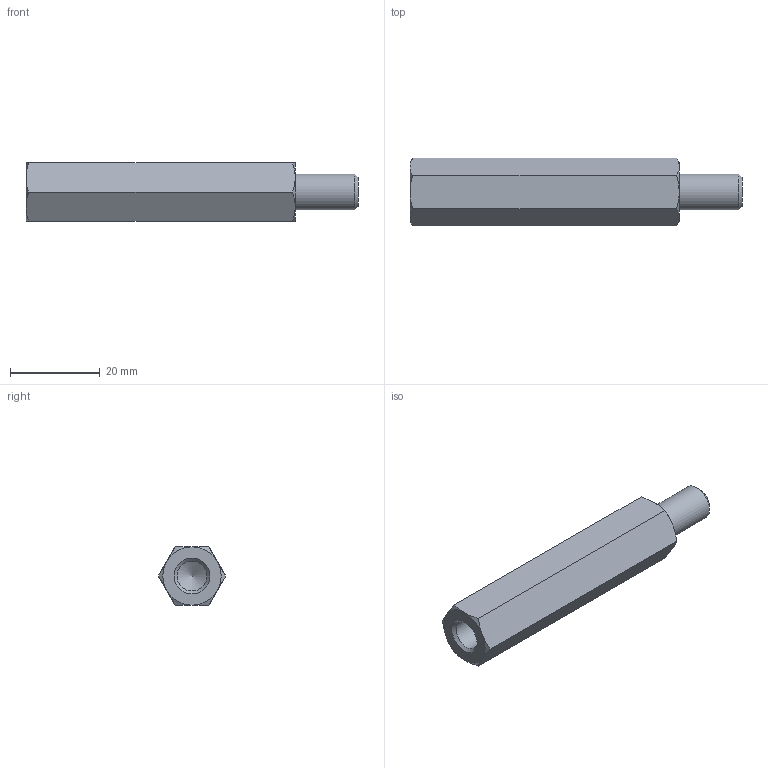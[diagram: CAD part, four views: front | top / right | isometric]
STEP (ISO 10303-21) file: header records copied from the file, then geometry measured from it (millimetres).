
FILE_DESCRIPTION( ( 'STEP AP203' ), '1' );
FILE_NAME( 'C:/Temp/Ganter_Step_05_03_2020/data/3_2/gn6220/gn6220_ni/Stainless Steel-Spacer GN 6220-NI-M8-60-B.stp', '2020-03-13T05:43:19', ( 'License CC BY-ND 4.0' ), ( 'CADENAS' ), ' ', 'PARTsolutions', ' ' );
FILE_SCHEMA( ( 'CONFIG_CONTROL_DESIGN' ) );
Length unit declared in the file: millimetre
Products named in the file (1): _Stainless Steel-Spacer GN 6220-NI-M8-60-B
Bounding box: 74 x 15.01 x 13 mm (x, y, z)
Volume: 8744.4 mm3; surface area: 3740.7 mm2
Topology: 1 solids, 1 shells, 26 faces, 55 edges, 32 vertices
Faces by surface type: cone 15, plane 9, cylinder 2
Full cylindrical faces by diameter (mm): 6.647 x1, 8 x1
Entity records: 778 total; most frequent: CARTESIAN_POINT 242, DIRECTION 96, ORIENTED_EDGE 96, EDGE_CURVE 48, AXIS2_PLACEMENT_3D 45, EDGE_LOOP 32, VERTEX_POINT 31, FACE_OUTER_BOUND 28
